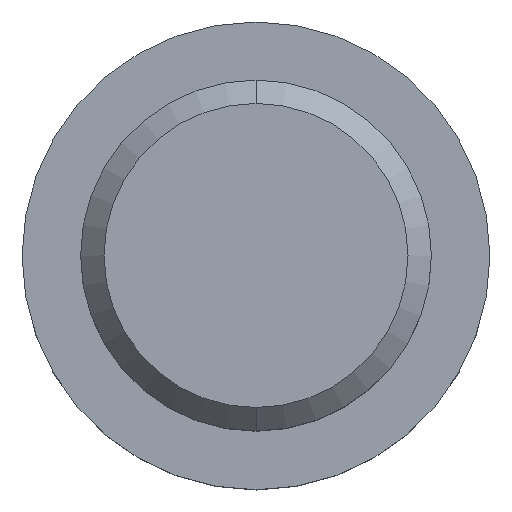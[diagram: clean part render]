
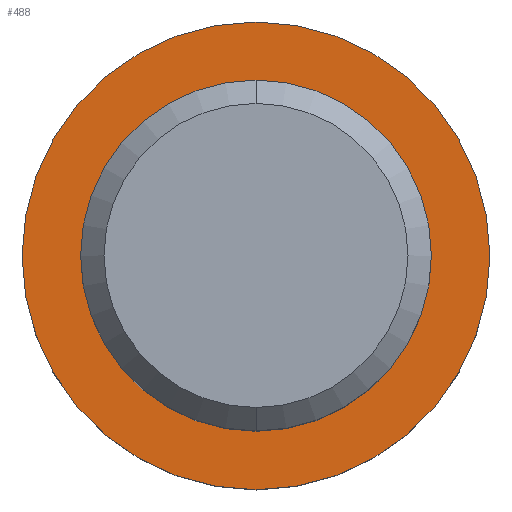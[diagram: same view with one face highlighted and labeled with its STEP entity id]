
A CAD part, top view. The second image highlights one B-rep face of the part: STEP entity #488.
In plain terms, the highlighted planar face has unit normal (0, 0, 1).
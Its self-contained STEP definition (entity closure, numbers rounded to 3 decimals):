
#141=CARTESIAN_POINT('',(0.,0.,-1.));
#142=DIRECTION('',(0.,0.,-1.));
#143=DIRECTION('',(0.,1.,0.));
#144=AXIS2_PLACEMENT_3D('',#141,#142,#143);
#146=CARTESIAN_POINT('',(0.,0.,-1.));
#147=DIRECTION('',(0.,0.,1.));
#148=DIRECTION('',(0.,1.,0.));
#149=AXIS2_PLACEMENT_3D('',#146,#147,#148);
#151=CARTESIAN_POINT('',(0.,0.,-1.));
#152=DIRECTION('',(0.,0.,1.));
#153=DIRECTION('',(0.,1.,0.));
#154=AXIS2_PLACEMENT_3D('',#151,#152,#153);
#160=CARTESIAN_POINT('',(0.,0.,-1.));
#161=DIRECTION('',(0.,0.,-1.));
#162=DIRECTION('',(0.,1.,0.));
#163=AXIS2_PLACEMENT_3D('',#160,#161,#162);
#208=CARTESIAN_POINT('',(0.,1.,-1.));
#210=VERTEX_POINT('',#208);
#211=CARTESIAN_POINT('',(0.,0.75,-1.));
#213=VERTEX_POINT('',#211);
#234=CARTESIAN_POINT('',(0.,-1.,-1.));
#236=VERTEX_POINT('',#234);
#237=CARTESIAN_POINT('',(0.,-0.75,-1.));
#239=VERTEX_POINT('',#237);
#473=CARTESIAN_POINT('',(0.,0.,-1.));
#474=DIRECTION('',(0.,0.,1.));
#475=DIRECTION('',(0.,1.,0.));
#476=AXIS2_PLACEMENT_3D('',#473,#474,#475);
#477=PLANE('',#476);
#478=ORIENTED_EDGE('',*,*,#468,.T.);
#479=ORIENTED_EDGE('',*,*,#452,.F.);
#480=EDGE_LOOP('',(#478,#479));
#481=FACE_OUTER_BOUND('',#480,.F.);
#483=ORIENTED_EDGE('',*,*,#482,.T.);
#485=ORIENTED_EDGE('',*,*,#484,.F.);
#486=EDGE_LOOP('',(#483,#485));
#487=FACE_BOUND('',#486,.F.);
#488=ADVANCED_FACE('',(#481,#487),#477,.T.);
#145=CIRCLE('',#144,1.);
#150=CIRCLE('',#149,1.);
#155=CIRCLE('',#154,0.75);
#164=CIRCLE('',#163,0.75);
#452=EDGE_CURVE('',#210,#236,#150,.T.);
#468=EDGE_CURVE('',#210,#236,#145,.T.);
#482=EDGE_CURVE('',#213,#239,#155,.T.);
#484=EDGE_CURVE('',#213,#239,#164,.T.);
